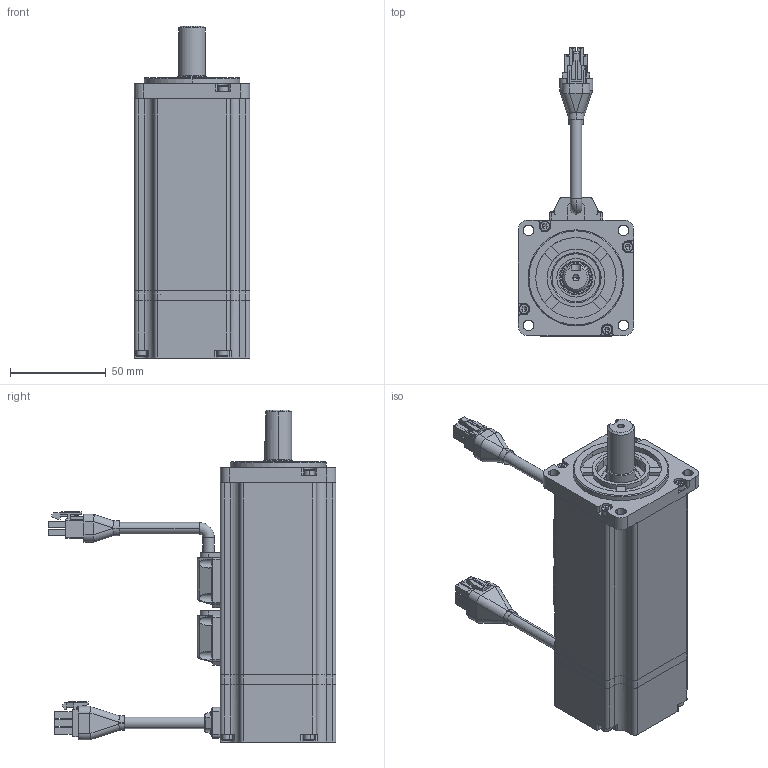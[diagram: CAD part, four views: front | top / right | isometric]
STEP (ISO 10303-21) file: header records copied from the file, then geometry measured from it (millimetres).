
FILE_DESCRIPTION (( 'STEP AP203' ), '1' );
FILE_NAME ('R60-400.STEP', '2019-08-23T07:06:01', ( '1' ), ( 'MideaGroup IT' ), 'SwSTEP 2.0', 'SolidWorks 2012', '' );
FILE_SCHEMA (( 'CONFIG_CONTROL_DESIGN' ));
Length unit declared in the file: millimetre
Products named in the file (26): R60-400; 雄薯盄揤裔郪璃; M3X28_GB_FASTENER_SCREWS_HSHCS M3X25-C; 雄薯盄傷赽裔; 雄薯盄; 雄薯盄傷赽; 雄薯盄躇猾菜; 雄薯盄揤裔; 毀嚏盄揤裔郪璃; 毀嚏盄傷赽揤裔; M2.5X5_GB_CROSS_SCREWS_TYPE3 M2.5X8-8-N; 晤鎢ん盄傷赽; 晤鎢ん盄揤裔躇猾; 晤鎢ん盄揤裔; 蛌赽郪璃-001; 6003; 6003_qiu; 6003_bq; 6003_nh; 6003_wq; 萇儂粣-001; 綴裔-001; 綴傷裔-001; ヶ傷裔-001; 儂褲-001
Assembly tree (56 placements, depth 4):
  R60-400
    儂褲-001
    ヶ傷裔-001
    綴傷裔-001
    綴裔-001
    蛌赽郪璃-001
      萇儂粣-001
      6003
        6003_wq
        6003_nh
        6003_bq
        6003_qiu  x11
    毀嚏盄揤裔郪璃
      晤鎢ん盄揤裔
      晤鎢ん盄揤裔躇猾
      晤鎢ん盄傷赽
      M2.5X5_GB_CROSS_SCREWS_TYPE3 M2.5X8-8-N  x4
      毀嚏盄傷赽揤裔
    雄薯盄揤裔郪璃
      雄薯盄揤裔
      雄薯盄躇猾菜
      雄薯盄傷赽
      雄薯盄
      M2.5X5_GB_CROSS_SCREWS_TYPE3 M2.5X8-8-N  x4
      雄薯盄傷赽裔
    M3X28_GB_FASTENER_SCREWS_HSHCS M3X25-C  x8
    雄薯盄揤裔郪璃
      雄薯盄揤裔
      雄薯盄躇猾菜
      雄薯盄
      M2.5X5_GB_CROSS_SCREWS_TYPE3 M2.5X8-8-N  x4
Bounding box: 60.2 x 150 x 173 mm (x, y, z)
Volume: 168193.9 mm3; surface area: 117949.4 mm2
Topology: 56 solids, 82 shells, 1823 faces, 4936 edges, 3258 vertices
Faces by surface type: plane 904, cylinder 706, cone 89, torus 56, sphere 46, bspline 22
Entity records: 46500 total; most frequent: CARTESIAN_POINT 11885, DIRECTION 6584, ORIENTED_EDGE 6245, EDGE_CURVE 3303, AXIS2_PLACEMENT_3D 2331, VERTEX_POINT 2198, LINE 1922, VECTOR 1922
